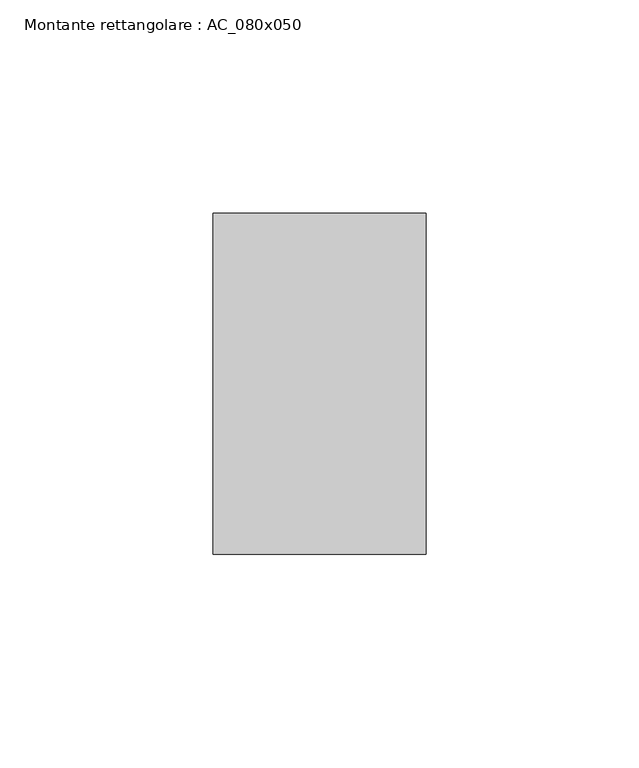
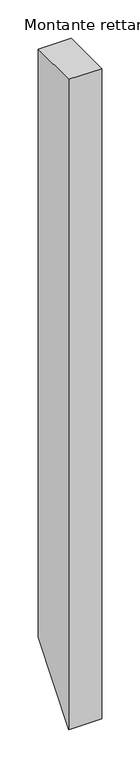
"""IFC4 building model written with IfcOpenShell, lengths in millimetres: member geometry, Montante rettangolare : AC_080x050."""

from ifc_helpers import new_model, si_unit, frame, origin, place, context, project, spatial, polyline, outline, extrude, source, transform, mapped, element, save


def montante_rettangolare_ac_080x050_c9e07f6a(model_context):
    return source(origin(), model_context, "Body", "SweptSolid", [
        extrude(outline(polyline([(-40.0, 0.0), (40.0, 0.0), (40.0, -940.3260285), (-40.0, -1040.0799805), (-40.0, 0.0)])), frame((-50.0, 0.0, 0.0), z_axis=(1.0, 0.0, 0.0), x_axis=(0.0, 1.0, 0.0)), (0.0, 0.0, 1.0), 50.0),
    ])


if __name__ == "__main__":
    model = new_model("IFC4")
    model_context = context("Model", 3, world=origin())
    ifc_project = project(units=[si_unit("LENGTHUNIT", "METRE", prefix="MILLI")], contexts=[model_context])
    site = spatial("IfcSite", under=ifc_project)
    building = spatial("IfcBuilding", under=site)
    placement = place(None, origin())
    montante_rettangolare_ac_080x050_shape = montante_rettangolare_ac_080x050_c9e07f6a(model_context)
    element("IfcMember", 1, ObjectType="Montante rettangolare : AC_080x050", at=placement, inside=building, context=model_context, shape_type="MappedRepresentation", body=[
        mapped(montante_rettangolare_ac_080x050_shape, transform((0.0, 0.0, 0.0), x_axis=(1.0, 0.0, 0.0), y_axis=(0.0, 1.0, 0.0), z_axis=(0.0, 0.0, 1.0))),
    ])
    save(model, "model.ifc")
